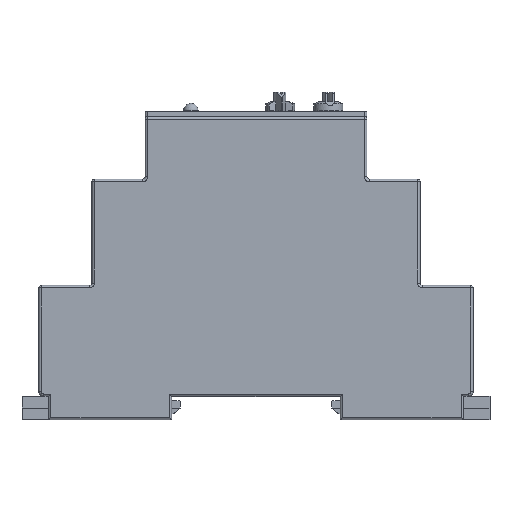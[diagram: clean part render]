
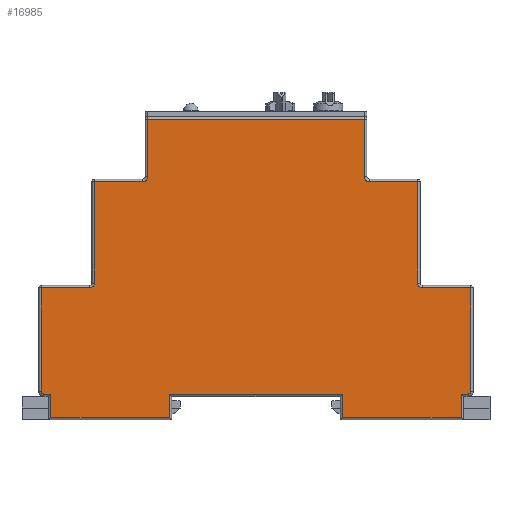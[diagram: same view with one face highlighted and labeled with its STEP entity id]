
A CAD part, top view. The second image highlights one B-rep face of the part: STEP entity #16985.
In plain terms, the highlighted planar face has unit normal (0, 0, 1).
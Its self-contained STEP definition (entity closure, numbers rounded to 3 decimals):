
#16985=ADVANCED_FACE('',(#40915),#40917,.F.);
#40915=FACE_BOUND('',#40916,.T.);
#40916=EDGE_LOOP('',(#60237,#60238,#60239,#60240,#60241,#60242,#60243,#60244,#60245,
#60246,#60247,#60248,#60249,#60250,#60251,#60252,#60253,#60254,#60255,#60256,#60257,
#60258,#60259,#60260,#60261,#60262));
#40917=PLANE('',#40918);
#40918=AXIS2_PLACEMENT_3D('',#40919,#40920,#40921);
#40919=CARTESIAN_POINT('',(0.,0.,18.));
#40920=DIRECTION('',(0.,0.,-1.));
#40921=DIRECTION('',(-1.,0.,0.));
#60237=ORIENTED_EDGE('',*,*,#71856,.F.);
#60238=ORIENTED_EDGE('',*,*,#71857,.F.);
#60239=ORIENTED_EDGE('',*,*,#71858,.F.);
#60240=ORIENTED_EDGE('',*,*,#71859,.F.);
#60241=ORIENTED_EDGE('',*,*,#71860,.F.);
#60242=ORIENTED_EDGE('',*,*,#71861,.F.);
#60243=ORIENTED_EDGE('',*,*,#71862,.F.);
#60244=ORIENTED_EDGE('',*,*,#71863,.F.);
#60245=ORIENTED_EDGE('',*,*,#71864,.F.);
#60246=ORIENTED_EDGE('',*,*,#71865,.F.);
#60247=ORIENTED_EDGE('',*,*,#71866,.F.);
#60248=ORIENTED_EDGE('',*,*,#71867,.F.);
#60249=ORIENTED_EDGE('',*,*,#71868,.F.);
#60250=ORIENTED_EDGE('',*,*,#71869,.F.);
#60251=ORIENTED_EDGE('',*,*,#71870,.F.);
#60252=ORIENTED_EDGE('',*,*,#71871,.F.);
#60253=ORIENTED_EDGE('',*,*,#71872,.F.);
#60254=ORIENTED_EDGE('',*,*,#71873,.F.);
#60255=ORIENTED_EDGE('',*,*,#71874,.F.);
#60256=ORIENTED_EDGE('',*,*,#71875,.F.);
#60257=ORIENTED_EDGE('',*,*,#71876,.F.);
#60258=ORIENTED_EDGE('',*,*,#71877,.F.);
#60259=ORIENTED_EDGE('',*,*,#71878,.F.);
#60260=ORIENTED_EDGE('',*,*,#70893,.F.);
#60261=ORIENTED_EDGE('',*,*,#71879,.F.);
#60262=ORIENTED_EDGE('',*,*,#71880,.F.);
#70893=EDGE_CURVE('',#82662,#82664,#82665,.T.);
#71856=EDGE_CURVE('',#84247,#84248,#84249,.T.);
#71857=EDGE_CURVE('',#84250,#84247,#84251,.T.);
#71858=EDGE_CURVE('',#84252,#84250,#84253,.F.);
#71859=EDGE_CURVE('',#84254,#84252,#84255,.T.);
#71860=EDGE_CURVE('',#84256,#84254,#84257,.T.);
#71861=EDGE_CURVE('',#84258,#84256,#84259,.T.);
#71862=EDGE_CURVE('',#84260,#84258,#84261,.T.);
#71863=EDGE_CURVE('',#84262,#84260,#84263,.T.);
#71864=EDGE_CURVE('',#84264,#84262,#84265,.T.);
#71865=EDGE_CURVE('',#84266,#84264,#84267,.T.);
#71866=EDGE_CURVE('',#84268,#84266,#84269,.T.);
#71867=EDGE_CURVE('',#84270,#84268,#84271,.T.);
#71868=EDGE_CURVE('',#84272,#84270,#84273,.T.);
#71869=EDGE_CURVE('',#84274,#84272,#84275,.T.);
#71870=EDGE_CURVE('',#84276,#84274,#84277,.T.);
#71871=EDGE_CURVE('',#84278,#84276,#84279,.T.);
#71872=EDGE_CURVE('',#84280,#84278,#84281,.T.);
#71873=EDGE_CURVE('',#84282,#84280,#84283,.T.);
#71874=EDGE_CURVE('',#84284,#84282,#84285,.F.);
#71875=EDGE_CURVE('',#84286,#84284,#84287,.T.);
#71876=EDGE_CURVE('',#84288,#84286,#84289,.T.);
#71877=EDGE_CURVE('',#84290,#84288,#84291,.F.);
#71878=EDGE_CURVE('',#82664,#84290,#84292,.T.);
#71879=EDGE_CURVE('',#84293,#82662,#84294,.T.);
#71880=EDGE_CURVE('',#84248,#84293,#84295,.F.);
#82662=VERTEX_POINT('',#108867);
#82664=VERTEX_POINT('',#108872);
#82665=LINE('',#108873,#108874);
#84247=VERTEX_POINT('',#112733);
#84248=VERTEX_POINT('',#112734);
#84249=LINE('',#112735,#112736);
#84250=VERTEX_POINT('',#112738);
#84251=LINE('',#112739,#112740);
#84252=VERTEX_POINT('',#112742);
#84253=CIRCLE('',#112743,1.);
#84254=VERTEX_POINT('',#112747);
#84255=LINE('',#112748,#112749);
#84256=VERTEX_POINT('',#112751);
#84257=LINE('',#112752,#112753);
#84258=VERTEX_POINT('',#112755);
#84259=CIRCLE('',#112756,0.5);
#84260=VERTEX_POINT('',#112760);
#84261=LINE('',#112761,#112762);
#84262=VERTEX_POINT('',#112764);
#84263=LINE('',#112765,#112766);
#84264=VERTEX_POINT('',#112768);
#84265=LINE('',#112769,#112770);
#84266=VERTEX_POINT('',#112772);
#84267=LINE('',#112773,#112774);
#84268=VERTEX_POINT('',#112776);
#84269=LINE('',#112777,#112778);
#84270=VERTEX_POINT('',#112780);
#84271=LINE('',#112781,#112782);
#84272=VERTEX_POINT('',#112784);
#84273=LINE('',#112785,#112786);
#84274=VERTEX_POINT('',#112788);
#84275=LINE('',#112789,#112790);
#84276=VERTEX_POINT('',#112792);
#84277=LINE('',#112793,#112794);
#84278=VERTEX_POINT('',#112796);
#84279=CIRCLE('',#112797,0.5);
#84280=VERTEX_POINT('',#112801);
#84281=LINE('',#112802,#112803);
#84282=VERTEX_POINT('',#112805);
#84283=LINE('',#112806,#112807);
#84284=VERTEX_POINT('',#112809);
#84285=CIRCLE('',#112810,1.);
#84286=VERTEX_POINT('',#112814);
#84287=LINE('',#112815,#112816);
#84288=VERTEX_POINT('',#112818);
#84289=LINE('',#112819,#112820);
#84290=VERTEX_POINT('',#112822);
#84291=CIRCLE('',#112823,1.);
#84292=LINE('',#112827,#112828);
#84293=VERTEX_POINT('',#112830);
#84294=LINE('',#112831,#112832);
#84295=CIRCLE('',#112834,1.);
#108867=CARTESIAN_POINT('',(-22.5,57.5,18.));
#108872=CARTESIAN_POINT('',(22.5,57.5,18.));
#108873=CARTESIAN_POINT('',(-22.5,57.5,18.));
#108874=VECTOR('',#108875,1.);
#108875=DIRECTION('',(1.,0.,0.));
#112733=CARTESIAN_POINT('',(-33.5,44.5,18.));
#112734=CARTESIAN_POINT('',(-23.5,44.5,18.));
#112735=CARTESIAN_POINT('',(-33.5,44.5,18.));
#112736=VECTOR('',#112737,1.);
#112737=DIRECTION('',(1.,0.,0.));
#112738=CARTESIAN_POINT('',(-33.5,23.5,18.));
#112739=CARTESIAN_POINT('',(-33.5,23.5,18.));
#112740=VECTOR('',#112741,1.);
#112741=DIRECTION('',(0.,1.,0.));
#112742=CARTESIAN_POINT('',(-34.5,22.5,18.));
#112743=AXIS2_PLACEMENT_3D('',#112744,#112745,#112746);
#112744=CARTESIAN_POINT('',(-34.5,23.5,18.));
#112745=DIRECTION('',(0.,0.,-1.));
#112746=DIRECTION('',(1.,0.,0.));
#112747=CARTESIAN_POINT('',(-44.5,22.5,18.));
#112748=CARTESIAN_POINT('',(-44.5,22.5,18.));
#112749=VECTOR('',#112750,1.);
#112750=DIRECTION('',(1.,0.,0.));
#112751=CARTESIAN_POINT('',(-44.5,1.,18.));
#112752=CARTESIAN_POINT('',(-44.5,1.,18.));
#112753=VECTOR('',#112754,1.);
#112754=DIRECTION('',(0.,1.,0.));
#112755=CARTESIAN_POINT('',(-44.,0.5,18.));
#112756=AXIS2_PLACEMENT_3D('',#112757,#112758,#112759);
#112757=CARTESIAN_POINT('',(-44.,1.,18.));
#112758=DIRECTION('',(0.,0.,-1.));
#112759=DIRECTION('',(0.,-1.,0.));
#112760=CARTESIAN_POINT('',(-42.5,0.5,18.));
#112761=CARTESIAN_POINT('',(-42.5,0.5,18.));
#112762=VECTOR('',#112763,1.);
#112763=DIRECTION('',(-1.,0.,0.));
#112764=CARTESIAN_POINT('',(-42.5,-4.3,18.));
#112765=CARTESIAN_POINT('',(-42.5,-4.3,18.));
#112766=VECTOR('',#112767,1.);
#112767=DIRECTION('',(0.,1.,0.));
#112768=CARTESIAN_POINT('',(-18.,-4.3,18.));
#112769=CARTESIAN_POINT('',(-18.,-4.3,18.));
#112770=VECTOR('',#112771,1.);
#112771=DIRECTION('',(-1.,0.,0.));
#112772=CARTESIAN_POINT('',(-18.,0.5,18.));
#112773=CARTESIAN_POINT('',(-18.,0.5,18.));
#112774=VECTOR('',#112775,1.);
#112775=DIRECTION('',(0.,-1.,0.));
#112776=CARTESIAN_POINT('',(18.,0.5,18.));
#112777=CARTESIAN_POINT('',(18.,0.5,18.));
#112778=VECTOR('',#112779,1.);
#112779=DIRECTION('',(-1.,0.,0.));
#112780=CARTESIAN_POINT('',(18.,-4.3,18.));
#112781=CARTESIAN_POINT('',(18.,-4.3,18.));
#112782=VECTOR('',#112783,1.);
#112783=DIRECTION('',(0.,1.,0.));
#112784=CARTESIAN_POINT('',(42.5,-4.3,18.));
#112785=CARTESIAN_POINT('',(42.5,-4.3,18.));
#112786=VECTOR('',#112787,1.);
#112787=DIRECTION('',(-1.,0.,0.));
#112788=CARTESIAN_POINT('',(42.5,0.5,18.));
#112789=CARTESIAN_POINT('',(42.5,0.5,18.));
#112790=VECTOR('',#112791,1.);
#112791=DIRECTION('',(0.,-1.,0.));
#112792=CARTESIAN_POINT('',(44.,0.5,18.));
#112793=CARTESIAN_POINT('',(44.,0.5,18.));
#112794=VECTOR('',#112795,1.);
#112795=DIRECTION('',(-1.,0.,0.));
#112796=CARTESIAN_POINT('',(44.5,1.,18.));
#112797=AXIS2_PLACEMENT_3D('',#112798,#112799,#112800);
#112798=CARTESIAN_POINT('',(44.,1.,18.));
#112799=DIRECTION('',(0.,0.,-1.));
#112800=DIRECTION('',(1.,0.,0.));
#112801=CARTESIAN_POINT('',(44.5,22.5,18.));
#112802=CARTESIAN_POINT('',(44.5,22.5,18.));
#112803=VECTOR('',#112804,1.);
#112804=DIRECTION('',(0.,-1.,0.));
#112805=CARTESIAN_POINT('',(34.5,22.5,18.));
#112806=CARTESIAN_POINT('',(34.5,22.5,18.));
#112807=VECTOR('',#112808,1.);
#112808=DIRECTION('',(1.,0.,0.));
#112809=CARTESIAN_POINT('',(33.5,23.5,18.));
#112810=AXIS2_PLACEMENT_3D('',#112811,#112812,#112813);
#112811=CARTESIAN_POINT('',(34.5,23.5,18.));
#112812=DIRECTION('',(0.,0.,-1.));
#112813=DIRECTION('',(0.,-1.,0.));
#112814=CARTESIAN_POINT('',(33.5,44.5,18.));
#112815=CARTESIAN_POINT('',(33.5,44.5,18.));
#112816=VECTOR('',#112817,1.);
#112817=DIRECTION('',(0.,-1.,0.));
#112818=CARTESIAN_POINT('',(23.5,44.5,18.));
#112819=CARTESIAN_POINT('',(23.5,44.5,18.));
#112820=VECTOR('',#112821,1.);
#112821=DIRECTION('',(1.,0.,0.));
#112822=CARTESIAN_POINT('',(22.5,45.5,18.));
#112823=AXIS2_PLACEMENT_3D('',#112824,#112825,#112826);
#112824=CARTESIAN_POINT('',(23.5,45.5,18.));
#112825=DIRECTION('',(0.,0.,-1.));
#112826=DIRECTION('',(0.,-1.,0.));
#112827=CARTESIAN_POINT('',(22.5,57.5,18.));
#112828=VECTOR('',#112829,1.);
#112829=DIRECTION('',(0.,-1.,0.));
#112830=CARTESIAN_POINT('',(-22.5,45.5,18.));
#112831=CARTESIAN_POINT('',(-22.5,45.5,18.));
#112832=VECTOR('',#112833,1.);
#112833=DIRECTION('',(0.,1.,0.));
#112834=AXIS2_PLACEMENT_3D('',#112835,#112836,#112837);
#112835=CARTESIAN_POINT('',(-23.5,45.5,18.));
#112836=DIRECTION('',(0.,0.,-1.));
#112837=DIRECTION('',(1.,0.,0.));
